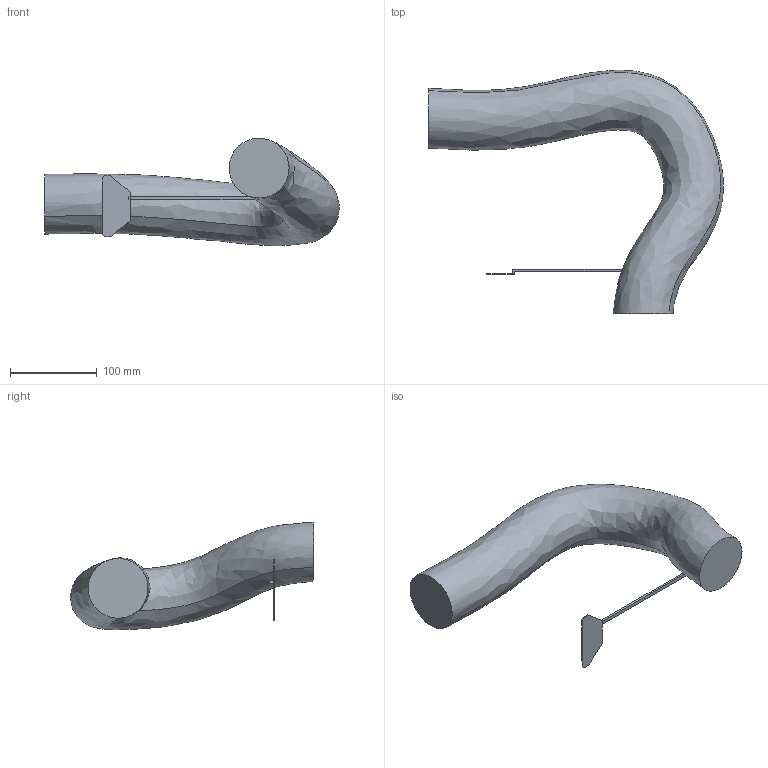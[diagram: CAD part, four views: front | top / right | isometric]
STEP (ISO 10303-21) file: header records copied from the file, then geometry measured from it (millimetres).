
FILE_DESCRIPTION (( 'STEP AP203' ), '1' );
FILE_NAME ('IRB6700-MH6_220-300_IRC5_rev00_LINK05_CABLE.STEP', '2014-08-27T11:27:49', ( 'ABB' ), ( 'ABB' ), 'SwSTEP 2.0', 'SolidWorks 2012', '' );
FILE_SCHEMA (( 'CONFIG_CONTROL_DESIGN' ));
Length unit declared in the file: millimetre
Products named in the file (1): IRB6700-MH6_220-300_IRC5_rev00_LINK05_CABLE
Bounding box: 338.98 x 280.31 x 123.74 mm (x, y, z)
Volume: 1990947.6 mm3; surface area: 128857.9 mm2
Topology: 1 solids, 1 shells, 21 faces, 51 edges, 33 vertices
Faces by surface type: plane 19, bspline 2
Entity records: 12448 total; most frequent: CARTESIAN_POINT 11902, ORIENTED_EDGE 102, DIRECTION 81, EDGE_CURVE 51, LINE 41, VECTOR 41, VERTEX_POINT 33, EDGE_LOOP 22
